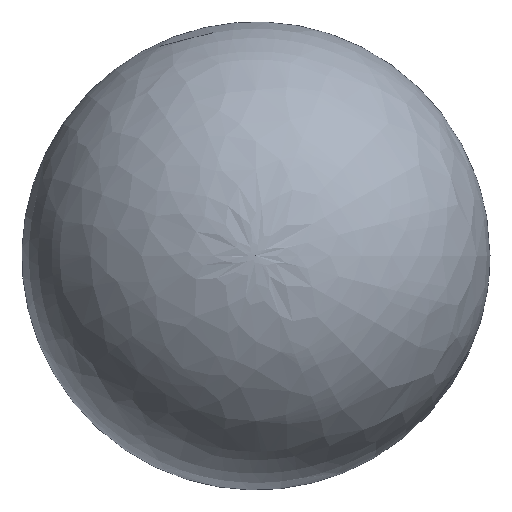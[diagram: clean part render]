
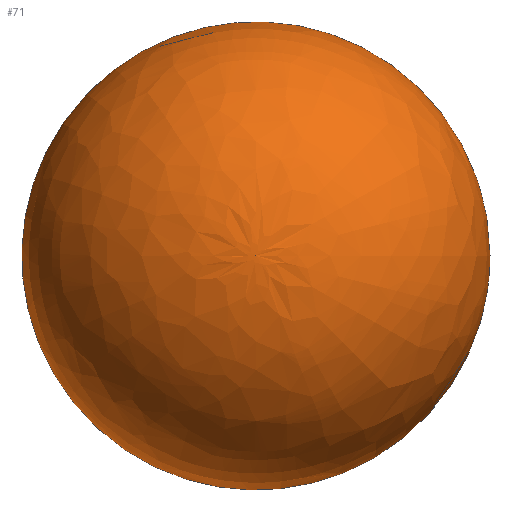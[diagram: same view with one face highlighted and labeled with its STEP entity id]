
A CAD part, top view. The second image highlights one B-rep face of the part: STEP entity #71.
In plain terms, the highlighted free-form (B-spline) face has degree [2, 2] with [9, 3] control points.
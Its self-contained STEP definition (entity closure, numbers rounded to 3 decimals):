
#18=CARTESIAN_POINT('',(20.0,0.0,0.));
#19=CARTESIAN_POINT('',(20.,20.0,0.));
#20=CARTESIAN_POINT('',(0.,20.0,0.));
#21=CARTESIAN_POINT('',(-20.0,20.,0.));
#22=CARTESIAN_POINT('',(-20.0,0.,0.));
#23=CARTESIAN_POINT('',(-20.,-20.0,0.));
#24=CARTESIAN_POINT('',(0.,-20.0,0.));
#25=CARTESIAN_POINT('',(20.,-20.,0.));
#26=CARTESIAN_POINT('',(20.0,0.,0.));
#27=( BOUNDED_CURVE() B_SPLINE_CURVE(2,(#18,#19,#20,#21,#22,#23,#24,#25,#26),.UNSPECIFIED.,.T.,.F.) B_SPLINE_CURVE_WITH_KNOTS((3,2,2,2,3),(0.0,0.25,0.5,0.75,1.0),.UNSPECIFIED.) CURVE() GEOMETRIC_REPRESENTATION_ITEM() RATIONAL_B_SPLINE_CURVE((1.0,0.707,1.0,0.707,1.0,0.707,1.0,0.707,1.0)) REPRESENTATION_ITEM('') );
#28=CARTESIAN_POINT('',(20.0,0.0,0.));
#29=VERTEX_POINT('',#28);
#30=EDGE_CURVE('',#29,#29,#27,.T.);
#40=CARTESIAN_POINT('',(20.0,0.0,0.));
#41=CARTESIAN_POINT('',(20.,0.0,20.0));
#42=CARTESIAN_POINT('',(0.0,0.0,20.0));
#43=CARTESIAN_POINT('',(20.,20.0,0.));
#44=CARTESIAN_POINT('',(20.0,20.,20.0));
#45=CARTESIAN_POINT('',(0.0,0.0,20.0));
#46=CARTESIAN_POINT('',(0.,20.0,0.));
#47=CARTESIAN_POINT('',(0.,20.,20.0));
#48=CARTESIAN_POINT('',(0.0,0.0,20.0));
#49=CARTESIAN_POINT('',(-20.0,20.,0.));
#50=CARTESIAN_POINT('',(-20.,20.0,20.0));
#51=CARTESIAN_POINT('',(0.0,0.0,20.0));
#52=CARTESIAN_POINT('',(-20.0,0.,0.));
#53=CARTESIAN_POINT('',(-20.,0.,20.0));
#54=CARTESIAN_POINT('',(0.0,0.0,20.0));
#55=CARTESIAN_POINT('',(-20.,-20.0,0.));
#56=CARTESIAN_POINT('',(-20.0,-20.,20.0));
#57=CARTESIAN_POINT('',(0.0,0.0,20.0));
#58=CARTESIAN_POINT('',(0.,-20.0,0.));
#59=CARTESIAN_POINT('',(0.,-20.,20.0));
#60=CARTESIAN_POINT('',(0.0,0.0,20.0));
#61=CARTESIAN_POINT('',(20.,-20.,0.));
#62=CARTESIAN_POINT('',(20.,-20.0,20.0));
#63=CARTESIAN_POINT('',(0.0,0.0,20.0));
#64=CARTESIAN_POINT('',(20.0,0.,0.));
#65=CARTESIAN_POINT('',(20.,0.,20.0));
#66=CARTESIAN_POINT('',(0.0,0.0,20.0));
#67=( BOUNDED_SURFACE() B_SPLINE_SURFACE(2,2,((#40,#41,#42),(#43,#44,#45),(#46,#47,#48),(#49,#50,#51),(#52,#53,#54),(#55,#56,#57),(#58,#59,#60),(#61,#62,#63),(#64,#65,#66)),.UNSPECIFIED.,.T.,.F.,.F.) B_SPLINE_SURFACE_WITH_KNOTS((3,2,2,2,3),(3,3),(0.0,0.25,0.5,0.75,1.0),(0.0,1.0),.UNSPECIFIED.) GEOMETRIC_REPRESENTATION_ITEM() RATIONAL_B_SPLINE_SURFACE(((1.0,0.707,1.0),(0.707,0.5,0.707),(1.0,0.707,1.0),(0.707,0.5,0.707),(1.0,0.707,1.0),(0.707,0.5,0.707),(1.0,0.707,1.0),(0.707,0.5,0.707),(1.0,0.707,1.0))) REPRESENTATION_ITEM('') SURFACE() );
#68=ORIENTED_EDGE('',*,*,#30,.T.);
#69=EDGE_LOOP('',(#68));
#70=FACE_OUTER_BOUND('',#69,.T.);
#71=ADVANCED_FACE('',(#70),#67,.T.);
